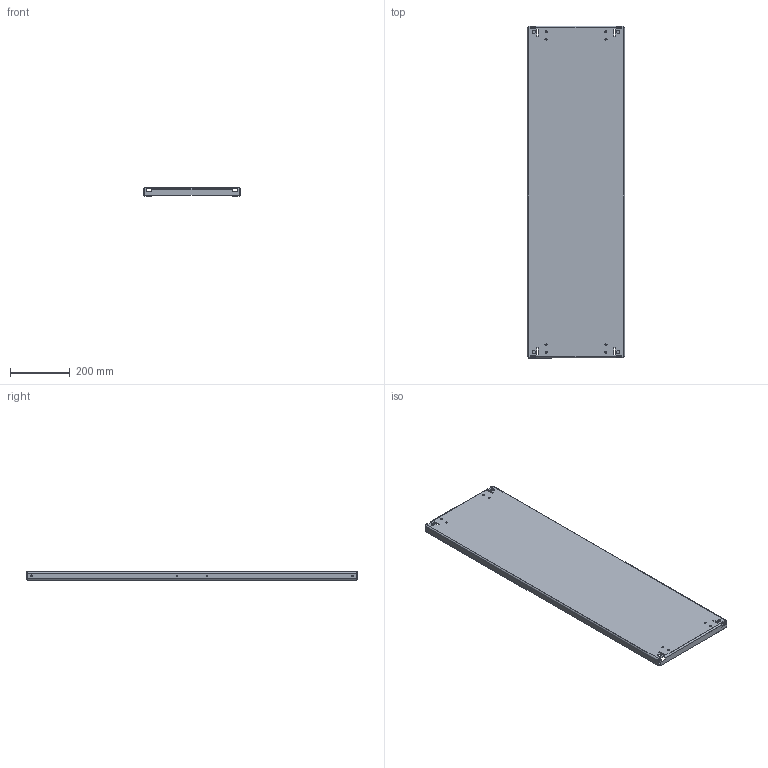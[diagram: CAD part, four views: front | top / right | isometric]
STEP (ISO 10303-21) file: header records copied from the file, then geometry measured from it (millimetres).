
FILE_DESCRIPTION (( 'STEP AP203' ), '1' );
FILE_NAME ('p2pp114.STEP', '2016-03-24T15:35:17', ( '' ), ( '' ), 'SwSTEP 2.0', 'SolidWorks 2014', '' );
FILE_SCHEMA (( 'CONFIG_CONTROL_DESIGN' ));
Length unit declared in the file: millimetre
Products named in the file (2): 89136488_FORMED; p2pp114
Assembly tree (1 placements, depth 2):
  p2pp114
    89136488_FORMED
Bounding box: 325.89 x 1113.51 x 28.45 mm (x, y, z)
Volume: 1172126.1 mm3; surface area: 961460.2 mm2
Topology: 1 solids, 1 shells, 194 faces, 512 edges, 324 vertices
Faces by surface type: plane 142, cylinder 52
Entity records: 6200 total; most frequent: CARTESIAN_POINT 1034, ORIENTED_EDGE 1024, DIRECTION 1016, EDGE_CURVE 512, LINE 404, VECTOR 404, VERTEX_POINT 324, AXIS2_PLACEMENT_3D 306
